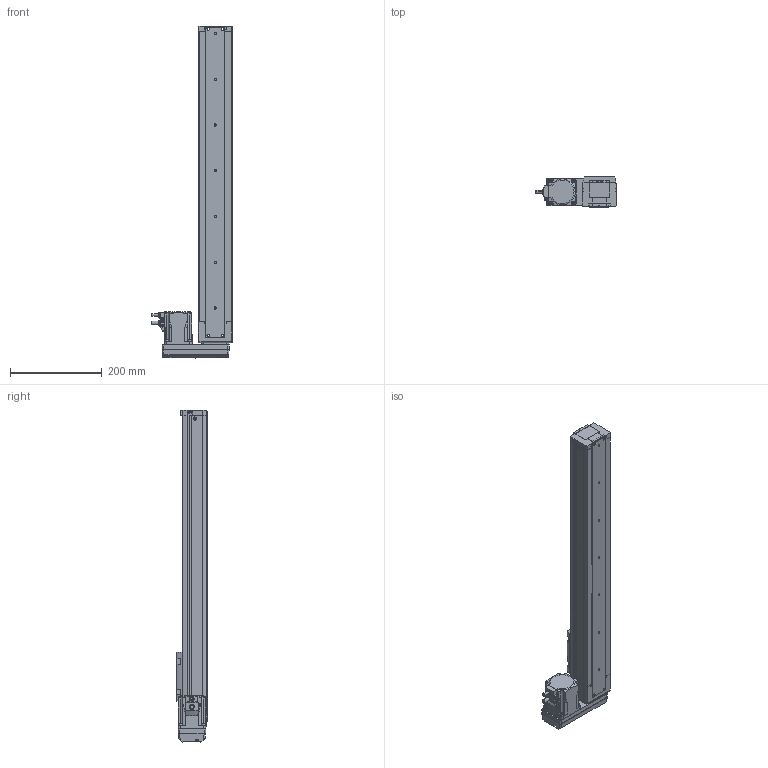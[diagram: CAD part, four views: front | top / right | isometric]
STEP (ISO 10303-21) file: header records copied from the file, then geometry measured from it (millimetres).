
FILE_DESCRIPTION (( 'STEP AP203' ), '1' );
FILE_NAME ('EZSM6RD050AZAK.step', '2015-06-29T10:19:48', ( 'om' ), ( 'Hewlett-Packard Company' ), 'SwSTEP 2.0', 'SolidWorks 2014', '' );
FILE_SCHEMA (( 'CONFIG_CONTROL_DESIGN' ));
Length unit declared in the file: millimetre
Products named in the file (4): EZSM6RD050AZAK_Table; EZSM6RD050AZAK; EZSM6RD050AZAK_Motor; EZSM6RD050AZAK_BASE
Assembly tree (3 placements, depth 2):
  EZSM6RD050AZAK
    EZSM6RD050AZAK_Motor
    EZSM6RD050AZAK_BASE
    EZSM6RD050AZAK_Table
Bounding box: 176 x 66.5 x 725.73 mm (x, y, z)
Volume: 3240749.2 mm3; surface area: 281674.4 mm2
Topology: 3 solids, 7 shells, 964 faces, 2391 edges, 1544 vertices
Faces by surface type: plane 622, cylinder 268, cone 44, torus 27, sphere 2, bspline 1
Entity records: 29334 total; most frequent: CARTESIAN_POINT 5566, DIRECTION 4885, ORIENTED_EDGE 4782, EDGE_CURVE 2391, LINE 1707, VECTOR 1707, AXIS2_PLACEMENT_3D 1589, VERTEX_POINT 1544
